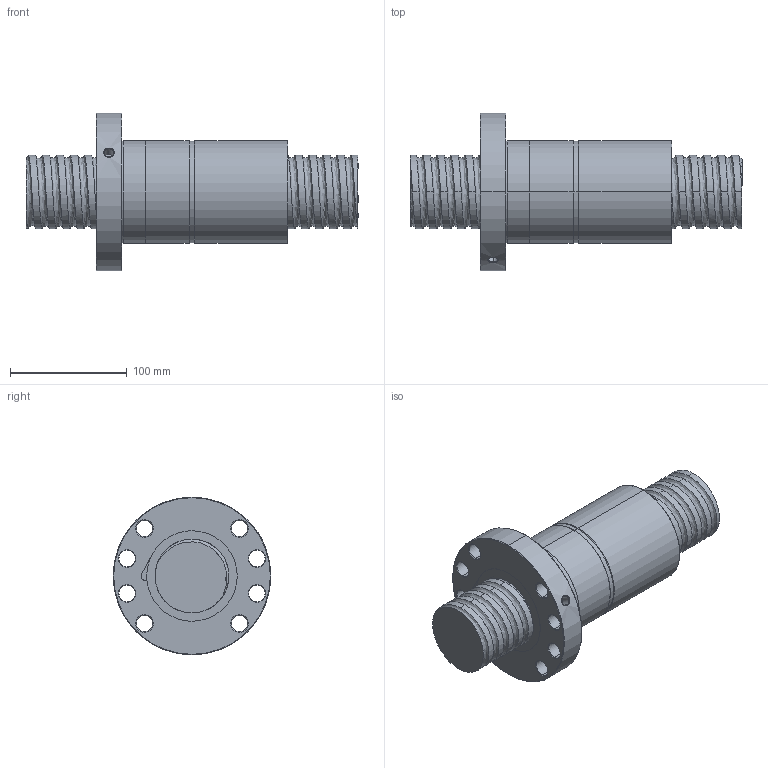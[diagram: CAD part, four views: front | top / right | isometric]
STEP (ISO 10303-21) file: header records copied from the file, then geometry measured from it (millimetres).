
FILE_DESCRIPTION (( 'STEP AP214' ), '1' );
FILE_NAME ('FDDC06310T5-F-A.STEP', '2010-07-07T01:34:40', ( 'XPAUTO' ), ( 'XPAUTO' ), 'SwSTEP 2.0', 'SolidWorks 2007', '' );
FILE_SCHEMA (( 'AUTOMOTIVE_DESIGN' ));
Products named in the file (3): FDDC06310T5-F-A; FDDC06310T5-F-A.sldasm-Part-2_預設; FDDC06310T5-F-A.sldasm-Part-1_預設
Assembly tree (2 placements, depth 2):
  FDDC06310T5-F-A
    FDDC06310T5-F-A.sldasm-Part-1_預設
    FDDC06310T5-F-A.sldasm-Part-2_預設
Bounding box: 284 x 135 x 135 mm (x, y, z)
Volume: 1465605.3 mm3; surface area: 181621 mm2
Topology: 2 solids, 2 shells, 157 faces, 393 edges, 245 vertices
Faces by surface type: cylinder 94, cone 32, plane 16, torus 10, bspline 5
Entity records: 47216 total; most frequent: CARTESIAN_POINT 43484, ORIENTED_EDGE 786, DIRECTION 729, EDGE_CURVE 393, AXIS2_PLACEMENT_3D 298, VERTEX_POINT 245, EDGE_LOOP 182, FACE_OUTER_BOUND 157
